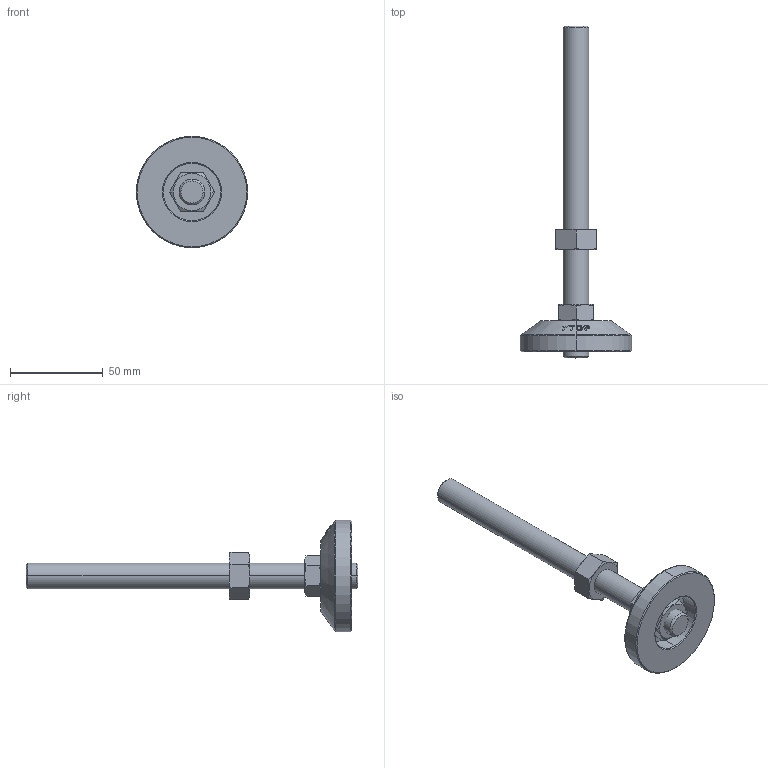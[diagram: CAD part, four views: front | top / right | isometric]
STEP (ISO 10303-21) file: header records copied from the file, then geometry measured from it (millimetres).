
FILE_DESCRIPTION (( 'STEP AP203' ), '1' );
FILE_NAME ('M-60-14150-S.STEP', '2020-09-10T06:57:54', ( '' ), ( '' ), 'SwSTEP 2.0', 'SolidWorks 2016', '' );
FILE_SCHEMA (( 'CONFIG_CONTROL_DESIGN' ));
Length unit declared in the file: millimetre
Products named in the file (5): 不锈钢双头螺栓M14系列_M14X150; 脚垫调节六角螺母M14; hex thin nuts-grades ab-chamfered gb_GB_FASTENER_NUT_STNAB M14-N; M-60-14150-S; M-60-1褐菜 
Assembly tree (4 placements, depth 2):
  M-60-14150-S
    M-60-1褐菜 
    不锈钢双头螺栓M14系列_M14X150
    hex thin nuts-grades ab-chamfered gb_GB_FASTENER_NUT_STNAB M14-N
    脚垫调节六角螺母M14
Bounding box: 60 x 178.8 x 60 mm (x, y, z)
Volume: 65856.6 mm3; surface area: 20104.3 mm2
Topology: 4 solids, 4 shells, 133 faces, 308 edges, 192 vertices
Faces by surface type: cone 52, bspline 38, plane 29, cylinder 14
Entity records: 7778 total; most frequent: CARTESIAN_POINT 4617, ORIENTED_EDGE 616, DIRECTION 418, EDGE_CURVE 308, VERTEX_POINT 192, AXIS2_PLACEMENT_3D 176, B_SPLINE_CURVE_WITH_KNOTS 168, EDGE_LOOP 148
